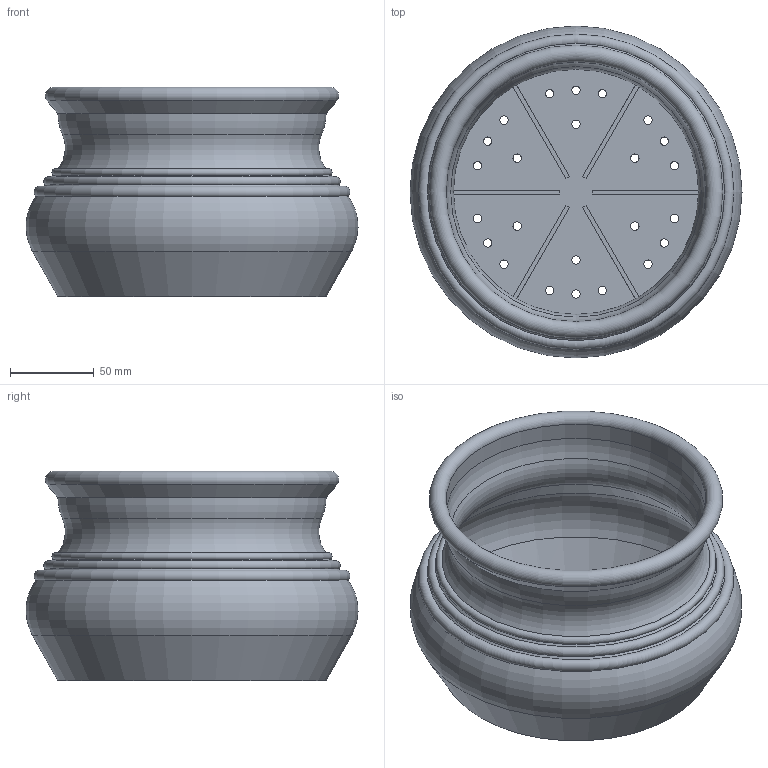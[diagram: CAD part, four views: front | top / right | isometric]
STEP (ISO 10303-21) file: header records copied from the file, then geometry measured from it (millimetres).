
FILE_DESCRIPTION(/* description */ (''),/* implementation_level */ '2;1');
FILE_NAME(/* name */ 'LR2406-S25-H125-D200_step.step',/* time_stamp */ '2024-02-01T11:23:25+01:00',/* author */ (''),/* organization */ (''),/* preprocessor_version */ 'ST-DEVELOPER v20',/* originating_system */ 'Autodesk Translation Framework v12.20.1.177',/* authorisation */ '');
FILE_SCHEMA (('AUTOMOTIVE_DESIGN { 1 0 10303 214 3 1 1 }'));
Length unit declared in the file: millimetre
Products named in the file (1): LR2406-S25-H125-D200
Bounding box: 197.99 x 197.99 x 125 mm (x, y, z)
Volume: 274130.1 mm3; surface area: 197718.3 mm2
Topology: 1 solids, 1 shells, 68 faces, 181 edges, 115 vertices
Faces by surface type: cylinder 31, plane 20, torus 10, cone 7
Full cylindrical faces by diameter (mm): 5 x24, 155 x1
Entity records: 2286 total; most frequent: DIRECTION 420, CARTESIAN_POINT 365, ORIENTED_EDGE 362, EDGE_CURVE 181, AXIS2_PLACEMENT_3D 170, EDGE_LOOP 116, VERTEX_POINT 115, CIRCLE 101
